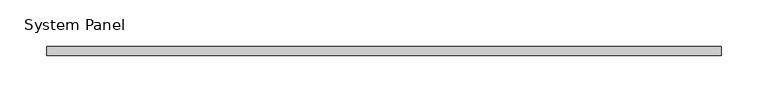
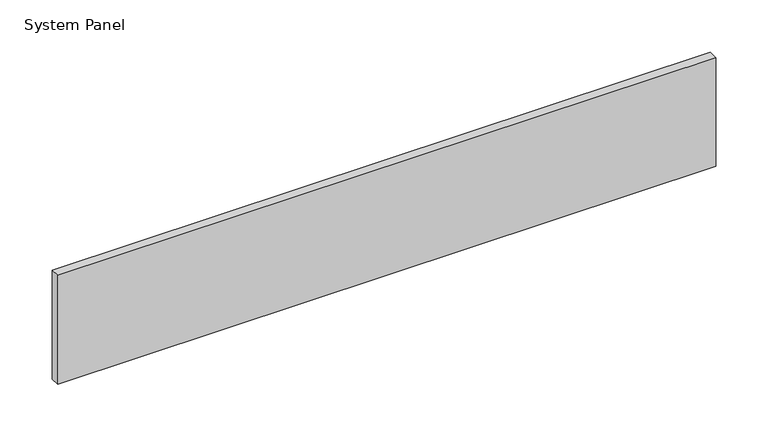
"""IFC4 building model written with IfcOpenShell, lengths in millimetres: plate geometry, System Panel : VACÍO."""

from ifc_helpers import new_model, si_unit, origin, origin_with_axes, place, context, project, spatial, polyline, outline, extrude, source, transform, mapped, element, save


def system_panel_766ca25a(model_context):
    return source(origin(), model_context, "Body", "SweptSolid", [
        extrude(outline(polyline([(362.6063987, -5.0), (-362.6063987, -5.0), (-362.6063987, 5.0), (362.6063987, 5.0), (362.6063987, -5.0)])), origin_with_axes(), (0.0, 0.0, 1.0), 126.8571429),
    ])


if __name__ == "__main__":
    model = new_model("IFC4")
    model_context = context("Model", 3, world=origin())
    ifc_project = project(units=[si_unit("LENGTHUNIT", "METRE", prefix="MILLI")], contexts=[model_context])
    site = spatial("IfcSite", under=ifc_project)
    building = spatial("IfcBuilding", under=site)
    placement = place(None, origin())
    system_panel_shape = system_panel_766ca25a(model_context)
    element("IfcPlate", 1, ObjectType="System Panel : VACÍO", at=placement, inside=building, context=model_context, shape_type="MappedRepresentation", body=[
        mapped(system_panel_shape, transform((0.0, 0.0, 0.0), x_axis=(1.0, 0.0, 0.0), y_axis=(0.0, 1.0, 0.0), z_axis=(0.0, 0.0, 1.0))),
    ])
    save(model, "model.ifc")
